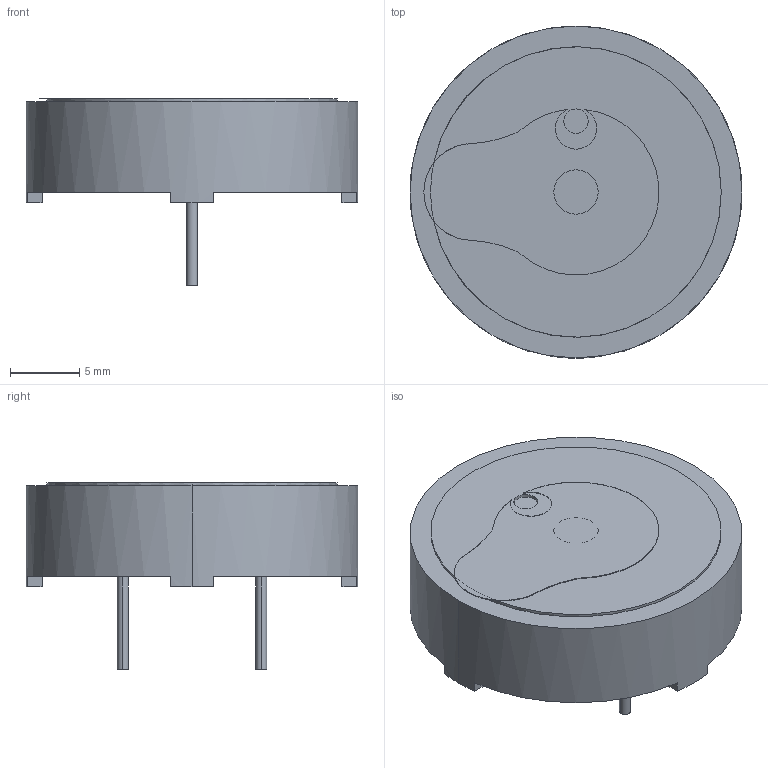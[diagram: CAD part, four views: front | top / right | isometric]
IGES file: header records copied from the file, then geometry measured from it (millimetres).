
Global section: file name: No Iges File Name specified; native system: AutoDesk Inventor R12.0; preprocessor: AutoDesk Inventor Iges Exporter R12.0; date: 20090223.154727; units: millimetre
Bounding box: 24 x 24 x 13.55 mm (x, y, z)
Volume: 1240.6 mm3; surface area: 3329.8 mm2
Topology: 1 solids, 3 shells, 61 faces, 142 edges, 94 vertices
Faces by surface type: plane 31, cylinder 15, revolution 15
